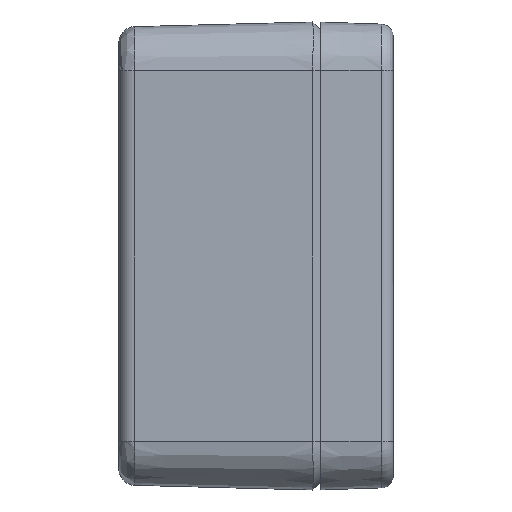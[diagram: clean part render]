
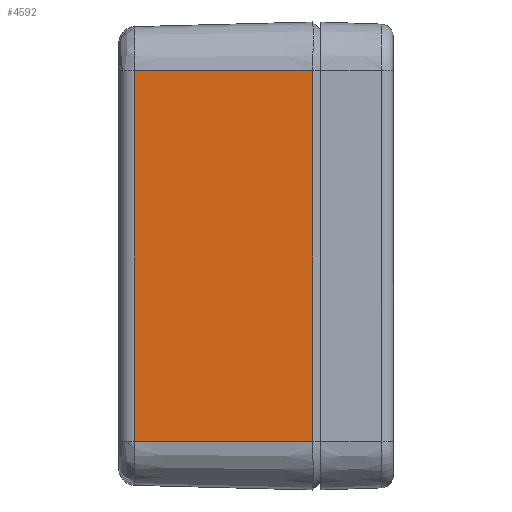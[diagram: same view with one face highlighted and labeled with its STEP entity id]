
A CAD part, left-side view. The second image highlights one B-rep face of the part: STEP entity #4592.
In plain terms, the highlighted planar face has unit normal (-1, 0.026, 0).
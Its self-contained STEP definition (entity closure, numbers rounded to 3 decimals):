
#249 = EDGE_CURVE ( 'NONE', #11784, #16041, #17760, .T. ) ;
#497 = CARTESIAN_POINT ( 'NONE',  ( -32.001, 0.951, -25.086 ) ) ;
#2117 = CARTESIAN_POINT ( 'NONE',  ( -32.001, 0.951, 22.95 ) ) ;
#2634 = ORIENTED_EDGE ( 'NONE', *, *, #6281, .T. ) ;
#3105 = ORIENTED_EDGE ( 'NONE', *, *, #17378, .T. ) ;
#3246 = DIRECTION ( 'NONE',  ( -1., 0.026, 0. ) ) ;
#4267 = LINE ( 'NONE', #15964, #13533 ) ;
#4592 = ADVANCED_FACE ( 'NONE', ( #17814 ), #16295, .T. ) ;
#5278 = VERTEX_POINT ( 'NONE', #10542 ) ;
#5692 = DIRECTION ( 'NONE',  ( 0., 0., 1. ) ) ;
#6261 = LINE ( 'NONE', #12252, #7935 ) ;
#6281 = EDGE_CURVE ( 'NONE', #16041, #16110, #9078, .T. ) ;
#7935 = VECTOR ( 'NONE', #17960, 1000. ) ;
#9078 = LINE ( 'NONE', #10508, #9640 ) ;
#9368 = DIRECTION ( 'NONE',  ( 0.026, 1., 0. ) ) ;
#9640 = VECTOR ( 'NONE', #9368, 1000. ) ;
#9996 = EDGE_LOOP ( 'NONE', ( #2634, #17909, #3105, #18482 ) ) ;
#10508 = CARTESIAN_POINT ( 'NONE',  ( -32., 1., 22.95 ) ) ;
#10542 = CARTESIAN_POINT ( 'NONE',  ( -31.423, 23.052, -22.95 ) ) ;
#11784 = VERTEX_POINT ( 'NONE', #17067 ) ;
#12252 = CARTESIAN_POINT ( 'NONE',  ( -32., 1., -22.95 ) ) ;
#13533 = VECTOR ( 'NONE', #5692, 1000. ) ;
#14298 = CARTESIAN_POINT ( 'NONE',  ( -31.423, 23.052, 22.95 ) ) ;
#14803 = DIRECTION ( 'NONE',  ( 0., 0., 1. ) ) ;
#15150 = CARTESIAN_POINT ( 'NONE',  ( -32., 1., -25.086 ) ) ;
#15596 = EDGE_CURVE ( 'NONE', #5278, #16110, #4267, .T. ) ;
#15722 = AXIS2_PLACEMENT_3D ( 'NONE', #15150, #3246, #16391 ) ;
#15964 = CARTESIAN_POINT ( 'NONE',  ( -31.423, 23.052, -23.139 ) ) ;
#16041 = VERTEX_POINT ( 'NONE', #2117 ) ;
#16110 = VERTEX_POINT ( 'NONE', #14298 ) ;
#16295 = PLANE ( 'NONE',  #15722 ) ;
#16391 = DIRECTION ( 'NONE',  ( -0.026, -1., 0. ) ) ;
#16903 = VECTOR ( 'NONE', #14803, 1000. ) ;
#17067 = CARTESIAN_POINT ( 'NONE',  ( -32.001, 0.951, -22.95 ) ) ;
#17378 = EDGE_CURVE ( 'NONE', #5278, #11784, #6261, .T. ) ;
#17760 = LINE ( 'NONE', #497, #16903 ) ;
#17814 = FACE_OUTER_BOUND ( 'NONE', #9996, .T. ) ;
#17909 = ORIENTED_EDGE ( 'NONE', *, *, #15596, .F. ) ;
#17960 = DIRECTION ( 'NONE',  ( -0.026, -1., 0. ) ) ;
#18482 = ORIENTED_EDGE ( 'NONE', *, *, #249, .T. ) ;
